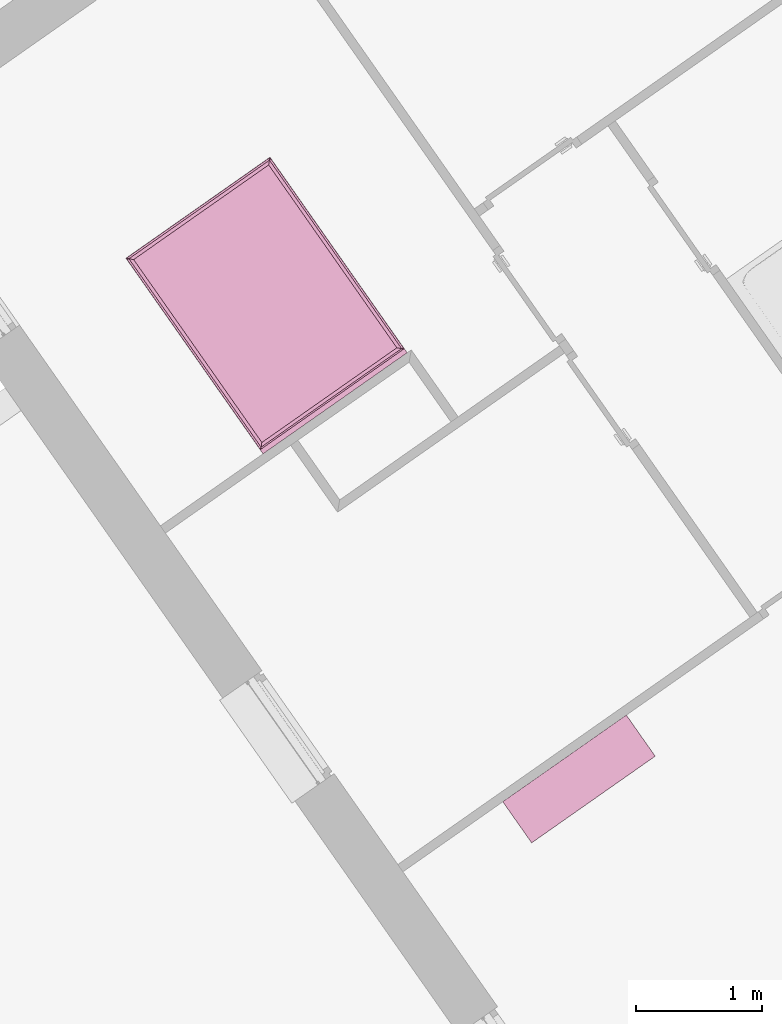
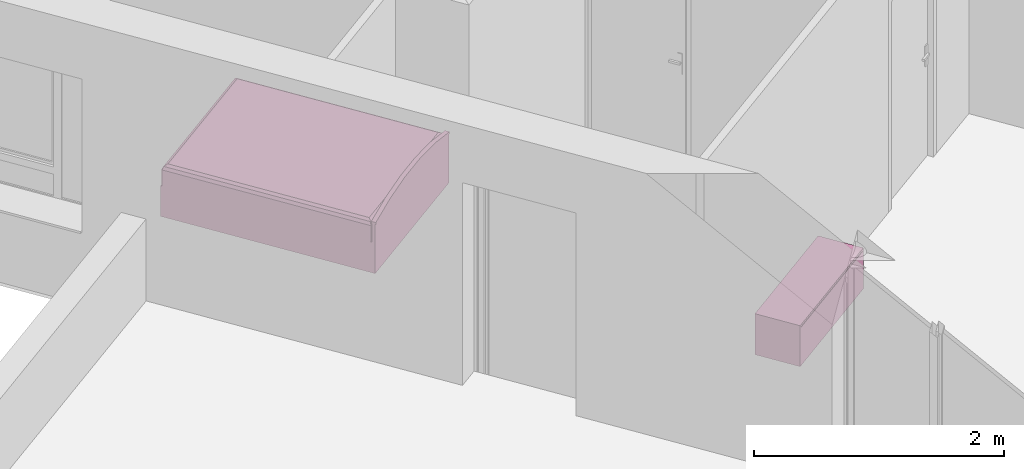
# One storey, part 102 of 121: 2 furnishings.
"""IFC2X3 building model written with IfcOpenShell, lengths in metres."""

from ifc_helpers import new_model, entity, si_unit, converted_unit, derived_unit, money_unit, direction, frame, origin_with_axes, place, context, subcontext, project, spatial, open_shell, faceted_brep, surface_model, source, transform, mapped, type_object, element, save


model = new_model("IFC2X3")

# Units and contexts
model_context = context("Model", 3, precision=1e-05, world=origin_with_axes(), true_north=direction((0.0, 1.0)))
body_context = subcontext(model_context, "Body", "Model", "MODEL_VIEW")
ifc_project = project(units=[si_unit("LENGTHUNIT", "METRE"), si_unit("AREAUNIT", "SQUARE_METRE"), si_unit("VOLUMEUNIT", "CUBIC_METRE"), converted_unit("PLANEANGLEUNIT", "DEGREE", entity("IfcPlaneAngleMeasure", 0.0174532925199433), si_unit("PLANEANGLEUNIT", "RADIAN"), dimensions=[0, 0, 0, 0, 0, 0, 0]), money_unit("CHF"), converted_unit("TIMEUNIT", "Year", entity("IfcTimeMeasure", 31557600.0), si_unit("TIMEUNIT", "SECOND"), dimensions=[0, 0, 1, 0, 0, 0, 0]), si_unit("MASSUNIT", "GRAM", prefix="KILO"), si_unit("THERMODYNAMICTEMPERATUREUNIT", "DEGREE_CELSIUS"), si_unit("LUMINOUSINTENSITYUNIT", "LUMEN"), si_unit("ENERGYUNIT", "JOULE", prefix="MEGA"), derived_unit("THERMALCONDUCTANCEUNIT", [(si_unit("POWERUNIT", "WATT"), 1), (si_unit("LENGTHUNIT", "METRE"), -1), (si_unit("THERMODYNAMICTEMPERATUREUNIT", "KELVIN"), -1)]), derived_unit("SPECIFICHEATCAPACITYUNIT", [(si_unit("ENERGYUNIT", "JOULE"), 1), (si_unit("MASSUNIT", "GRAM", prefix="KILO"), -1), (si_unit("THERMODYNAMICTEMPERATUREUNIT", "KELVIN"), -1)]), derived_unit("MASSDENSITYUNIT", [(si_unit("MASSUNIT", "GRAM", prefix="KILO"), 1), (si_unit("VOLUMEUNIT", "CUBIC_METRE"), -1)])], contexts=[model_context])

# Site, building, storey
site_placement = place(None, origin_with_axes())
site = spatial("IfcSite", under=ifc_project, at=site_placement, Name="Site", CompositionType="ELEMENT")
building_placement = place(site_placement, origin_with_axes())
building = spatial("IfcBuilding", under=site, at=building_placement, Name="Bâtiment", CompositionType="ELEMENT")
storey_placement = place(building_placement, frame((0.0, 0.0, 2.75), z_axis=(0.0, 0.0, 1.0), x_axis=(1.0, 0.0, 0.0)))
storey = spatial("IfcBuildingStorey", under=building, at=storey_placement, Name="Etage 1", CompositionType="ELEMENT", Elevation=2.75)

# Furnishings
furnishing_element_type_1 = type_object("IfcFurnishingElementType", Name="Meuble à plans 27")
shared_shape_1 = source(origin_with_axes(), body_context, "Body", "SurfaceModel", [
    surface_model("IfcShellBasedSurfaceModel", [(-1.18, 0.02, 0.0), (-1.18, 0.4, 0.0), (-0.02, 0.4, 0.0), (-0.02, 0.02, 0.0)], [open_shell([[[0, 1, 2, 3]]])]),
    faceted_brep([(0.0, 0.4, 0.0), (0.0, 0.0, 0.0), (-1.2, 0.0, 0.0), (-1.2, 0.4, 0.0), (0.0, 0.4, 0.4), (0.0, 0.0, 0.4), (-1.2, 0.0, 0.4), (-0.02, 0.0, 0.02), (-1.18, 0.0, 0.02), (-1.18, 0.0, 0.38), (-0.02, 0.0, 0.38), (-1.2, 0.4, 0.4), (-0.02, 0.4, 0.01999999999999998), (-0.02, 0.4, 0.38), (-1.18, 0.4, 0.38), (-1.18, 0.4, 0.01999999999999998)], [[[0, 1, 2, 3]], [[4, 5, 1, 0]], [[1, 5, 6, 2], [7, 8, 9, 10]], [[3, 2, 6, 11]], [[0, 3, 11, 4], [12, 13, 14, 15]], [[11, 6, 5, 4]], [[15, 8, 7, 12]], [[14, 9, 8, 15]], [[13, 10, 9, 14]], [[12, 7, 10, 13]]]),
    faceted_brep([(-1.18, 0.4, 0.01999999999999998), (-1.18, 0.4, 0.38), (-0.02, 0.4, 0.38), (-0.02, 0.4, 0.01999999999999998), (-1.18, 0.38, 0.01999999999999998), (-1.18, 0.3800000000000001, 0.38), (-0.02, 0.3800000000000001, 0.38), (-0.02, 0.38, 0.01999999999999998)], [[[0, 1, 2, 3]], [[0, 4, 5, 1]], [[1, 5, 6, 2]], [[2, 6, 7, 3]], [[3, 7, 4, 0]], [[7, 6, 5, 4]]]),
    faceted_brep([(-1.18, 0.0, 0.02), (-1.18, 0.38, 0.02), (-0.02, 0.38, 0.02), (-0.02, 0.0, 0.02), (-1.18, 0.0, 0.3750000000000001), (-1.18, 0.38, 0.3750000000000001), (-0.02, 0.38, 0.3750000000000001), (-0.02, 0.0, 0.3750000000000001)], [[[0, 1, 2, 3]], [[0, 4, 5, 1]], [[1, 5, 6, 2]], [[2, 6, 7, 3]], [[3, 7, 4, 0]], [[7, 6, 5, 4]]]),
])
furnishing_1_placement = place(storey_placement, frame((9555.962045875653, -1068.946968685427, 57.92018680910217), z_axis=(0.0, 0.0, 1.0), x_axis=(0.8187432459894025, 0.5741598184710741, 0.0)))
element("IfcFurnishingElement", 1, at=furnishing_1_placement, inside=storey, type_object=furnishing_element_type_1, Name="Obj.-376", context=body_context, shape_type="MappedRepresentation", body=[
    mapped(shared_shape_1, transform((0.0, 0.0, 0.0))),
])
furnishing_element_type_2 = type_object("IfcFurnishingElementType", Name="Lit double 01")
shared_shape_2 = source(origin_with_axes(), body_context, "Body", "Brep", [
    faceted_brep([(0.0, 1.895, 0.0), (0.0, 1.865, 0.0), (-1.4, 1.865, 0.0), (-1.4, 1.895, 0.0), (0.0, 1.895, 0.48), (0.0, 1.865, 0.48), (-0.276362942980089, 1.865, 0.5438448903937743), (-0.558179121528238, 1.865, 0.5759741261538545), (-0.8418208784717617, 1.865, 0.5759741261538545), (-1.123637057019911, 1.865, 0.5438448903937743), (-1.4, 1.865, 0.48), (-1.4, 1.865, 0.4799), (-1.4, 1.895, 0.4799), (-1.4, 1.895, 0.48), (-1.123637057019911, 1.895, 0.5438448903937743), (-0.8418208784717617, 1.895, 0.5759741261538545), (-0.558179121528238, 1.895, 0.5759741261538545), (-0.276362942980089, 1.895, 0.5438448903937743)], [[[0, 1, 2, 3]], [[4, 5, 1, 0]], [[1, 5, 6, 7, 8, 9, 10, 11, 2]], [[3, 2, 11, 12]], [[0, 3, 12, 13, 14, 15, 16, 17, 4]], [[17, 6, 5, 4]], [[16, 7, 6, 17]], [[15, 8, 7, 16]], [[14, 9, 8, 15]], [[13, 10, 9, 14]], [[12, 11, 10, 13]]]),
    faceted_brep([(-1.4, 1.9, 0.48), (-1.4, 1.86, 0.48), (-1.399999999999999, 1.86, 0.4999999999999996), (-1.399999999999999, 1.9, 0.4999999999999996), (-1.123637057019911, 1.9, 0.5438448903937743), (-1.123637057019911, 1.86, 0.5438448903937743), (-0.8418208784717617, 1.86, 0.5759741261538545), (-0.558179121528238, 1.86, 0.5759741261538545), (-0.276362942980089, 1.86, 0.5438448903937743), (0.0, 1.86, 0.48), (0.0, 1.86, 0.4999), (0.0, 1.86, 0.5), (-0.276362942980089, 1.86, 0.5638448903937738), (-0.5581791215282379, 1.86, 0.5959741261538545), (-0.8418208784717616, 1.86, 0.5959741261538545), (-1.123637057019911, 1.86, 0.5638448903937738), (-1.123637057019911, 1.9, 0.5638448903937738), (-0.8418208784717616, 1.9, 0.5959741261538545), (-0.5581791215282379, 1.9, 0.5959741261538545), (-0.276362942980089, 1.9, 0.5638448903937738), (0.0, 1.9, 0.5), (0.0, 1.9, 0.4999), (0.0, 1.9, 0.48), (-0.276362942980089, 1.9, 0.5438448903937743), (-0.558179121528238, 1.9, 0.5759741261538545), (-0.8418208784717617, 1.9, 0.5759741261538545)], [[[0, 1, 2, 3]], [[4, 5, 1, 0]], [[1, 5, 6, 7, 8, 9, 10, 11, 12, 13, 14, 15, 2]], [[3, 2, 15, 16]], [[0, 3, 16, 17, 18, 19, 20, 21, 22, 23, 24, 25, 4]], [[25, 6, 5, 4]], [[24, 7, 6, 25]], [[23, 8, 7, 24]], [[22, 9, 8, 23]], [[21, 10, 9, 22]], [[20, 11, 10, 21]], [[19, 12, 11, 20]], [[18, 13, 12, 19]], [[17, 14, 13, 18]], [[16, 15, 14, 17]]]),
    faceted_brep([(-1.4, 0.0, 0.0), (-1.4, 1.865, 0.0), (0.0, 1.865, 0.0), (0.0, 0.0, 0.0), (-1.4, 0.0, 0.3), (-1.4, 1.865, 0.3), (0.0, 1.865, 0.3), (0.0, 0.0, 0.3)], [[[0, 1, 2, 3]], [[0, 4, 5, 1]], [[1, 5, 6, 2]], [[2, 6, 7, 3]], [[3, 7, 4, 0]], [[7, 6, 5, 4]]]),
    faceted_brep([(0.0, 0.02, 0.43), (-0.002679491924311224, 0.01, 0.43), (-0.009999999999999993, 0.002679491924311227, 0.43), (-0.01999999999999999, 0.0, 0.43), (-1.38, 0.0, 0.43), (-1.39, 0.002679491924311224, 0.43), (-1.397320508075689, 0.009999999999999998, 0.43), (-1.4, 0.02, 0.43), (-1.4, 1.845, 0.43), (-1.397320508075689, 1.855, 0.43), (-1.39, 1.862320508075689, 0.43), (-1.38, 1.865, 0.43), (-0.02, 1.865, 0.43), (-0.009999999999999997, 1.862320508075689, 0.43), (-0.002679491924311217, 1.855, 0.43), (0.0, 1.845, 0.43), (3.895163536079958e-10, 0.02000000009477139, 0.44), (-0.002679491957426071, 0.0100000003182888, 0.44), (-0.0100000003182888, 0.002679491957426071, 0.44), (-0.02000000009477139, -3.895163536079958e-10, 0.44), (-1.380000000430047, -3.895163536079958e-10, 0.44), (-1.39000000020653, 0.002679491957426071, 0.44), (-1.39732050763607, 0.0100000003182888, 0.44), (-1.399999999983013, 0.02000000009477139, 0.44), (-1.399999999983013, 1.845000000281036, 0.44), (-1.39732050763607, 1.855000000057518, 0.44), (-1.39000000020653, 1.862320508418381, 0.44), (-1.380000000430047, 1.864999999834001, 0.44), (-0.02000000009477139, 1.864999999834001, 0.44), (-0.0100000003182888, 1.862320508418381, 0.44), (-0.002679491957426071, 1.855000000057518, 0.44), (3.895163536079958e-10, 1.845000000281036, 0.44), (-0.002044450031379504, 0.02026915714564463, 0.4555291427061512), (-0.004512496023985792, 0.01105828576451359, 0.4555291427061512), (-0.01105828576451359, 0.004512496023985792, 0.4555291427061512), (-0.02026915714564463, 0.002044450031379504, 0.4555291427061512), (-1.379730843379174, 0.002044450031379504, 0.4555291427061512), (-1.388941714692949, 0.004512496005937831, 0.4555291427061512), (-1.395487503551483, 0.01105828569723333, 0.4555291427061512), (-1.397955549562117, 0.02026915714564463, 0.4555291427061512), (-1.397955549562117, 1.844730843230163, 0.4555291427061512), (-1.395487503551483, 1.853941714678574, 0.4555291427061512), (-1.388941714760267, 1.860487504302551, 0.4555291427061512), (-1.379730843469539, 1.862955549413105, 0.4555291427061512), (-0.02026915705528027, 1.862955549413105, 0.4555291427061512), (-0.01105828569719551, 1.860487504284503, 0.4555291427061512), (-0.004512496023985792, 1.853941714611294, 0.4555291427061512), (-0.002044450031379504, 1.844730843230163, 0.4555291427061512), (-0.01757359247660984, 0.02231360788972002, 0.4824264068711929), (-0.01843554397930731, 0.01909676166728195, 0.4824264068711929), (-0.01909676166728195, 0.01843554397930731, 0.4824264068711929), (-0.02231360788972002, 0.01757359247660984, 0.4824264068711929), (-1.377686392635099, 0.01757359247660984, 0.4824264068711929), (-1.380903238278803, 0.01843554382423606, 0.4824264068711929), (-1.381564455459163, 0.01909676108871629, 0.4824264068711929), (-1.382426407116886, 0.02231360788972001, 0.4824264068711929), (-1.382426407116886, 1.842686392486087, 0.4824264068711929), (-1.381564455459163, 1.845903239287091, 0.4824264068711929), (-1.380903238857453, 1.846564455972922, 0.4824264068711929), (-1.377686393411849, 1.847426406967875, 0.4824264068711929), (-0.02231360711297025, 1.847426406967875, 0.4824264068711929), (-0.01909676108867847, 1.846564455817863, 0.4824264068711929), (-0.01843554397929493, 1.845903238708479, 0.4824264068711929), (-0.01757359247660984, 1.842686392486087, 0.4824264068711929), (-0.02303225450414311, 0.02303225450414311, 0.4855779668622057), (-0.02000000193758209, 0.02000000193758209, 0.4834338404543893), (-0.04447085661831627, 0.04447085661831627, 0.4979555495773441), (-1.35552914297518, 0.04447085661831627, 0.4979555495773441), (-1.376967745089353, 0.02303225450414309, 0.4855779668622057), (-1.379999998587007, 0.02000000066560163, 0.4834338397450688), (-1.35552914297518, 1.820529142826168, 0.4979555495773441), (-1.376967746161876, 1.841967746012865, 0.4855779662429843), (-1.380000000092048, 1.845000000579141, 0.4834338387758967), (-0.04447085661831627, 1.820529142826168, 0.4979555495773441), (-0.02303225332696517, 1.841967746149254, 0.48557796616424), (-0.02000000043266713, 1.844999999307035, 0.4834338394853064), (-0.05999999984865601, 0.05999999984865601, 0.5000000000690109), (-1.33999999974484, 0.05999999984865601, 0.5000000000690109), (-1.33999999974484, 1.804999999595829, 0.5000000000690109), (-0.05999999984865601, 1.804999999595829, 0.5000000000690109)], [[[0, 1, 2, 3, 4, 5, 6, 7, 8, 9, 10, 11, 12, 13, 14, 15]], [[0, 16, 17, 1]], [[1, 17, 18, 2]], [[2, 18, 19, 3]], [[3, 19, 20, 4]], [[4, 20, 21, 5]], [[5, 21, 22, 6]], [[6, 22, 23, 7]], [[7, 23, 24, 8]], [[8, 24, 25, 9]], [[9, 25, 26, 10]], [[10, 26, 27, 11]], [[11, 27, 28, 12]], [[12, 28, 29, 13]], [[13, 29, 30, 14]], [[14, 30, 31, 15]], [[15, 31, 16, 0]], [[16, 32, 33, 17]], [[17, 33, 34, 18]], [[18, 34, 35, 19]], [[19, 35, 36, 20]], [[20, 36, 37, 21]], [[21, 37, 38, 22]], [[22, 38, 39, 23]], [[23, 39, 40, 24]], [[24, 40, 41, 25]], [[25, 41, 42, 26]], [[26, 42, 43, 27]], [[27, 43, 44, 28]], [[28, 44, 45, 29]], [[29, 45, 46, 30]], [[30, 46, 47, 31]], [[31, 47, 32, 16]], [[32, 48, 49, 33]], [[33, 49, 50, 34]], [[34, 50, 51, 35]], [[35, 51, 52, 36]], [[36, 52, 53, 37]], [[37, 53, 54, 38]], [[38, 54, 55, 39]], [[39, 55, 56, 40]], [[40, 56, 57, 41]], [[41, 57, 58, 42]], [[42, 58, 59, 43]], [[43, 59, 60, 44]], [[44, 60, 61, 45]], [[45, 61, 62, 46]], [[46, 62, 63, 47]], [[47, 63, 48, 32]], [[48, 64, 65, 49]], [[49, 65, 50]], [[50, 65, 64, 51]], [[51, 64, 66, 67, 68, 52]], [[52, 68, 69, 53]], [[53, 69, 54]], [[54, 69, 68, 55]], [[55, 68, 67, 70, 71, 56]], [[56, 71, 72, 57]], [[57, 72, 58]], [[58, 72, 71, 59]], [[59, 71, 70, 73, 74, 60]], [[60, 74, 75, 61]], [[61, 75, 62]], [[62, 75, 74, 63]], [[63, 74, 73, 66, 64, 48]], [[66, 76, 77, 67]], [[67, 77, 78, 70]], [[70, 78, 79, 73]], [[73, 79, 76, 66]], [[78, 77, 76, 79]]]),
    faceted_brep([(-1.39000000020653, 0.002679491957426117, 0.2999999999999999), (-1.39, 0.002679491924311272, 0.3099999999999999), (-1.397320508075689, 0.01000000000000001, 0.3099999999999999), (-1.39732050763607, 0.01000000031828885, 0.2999999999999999), (-1.380000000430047, -3.895163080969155e-10, 0.2999999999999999), (-1.38, 0.0, 0.3099999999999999), (-1.4, 0.02000000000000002, 0.3099999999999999), (-0.02000000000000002, 0.0, 0.3099999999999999), (-0.01000000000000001, 0.002679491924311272, 0.3099999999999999), (-0.002679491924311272, 0.01000000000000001, 0.3099999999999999), (0.0, 0.02000000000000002, 0.3099999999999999), (0.0, 1.845, 0.3099999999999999), (-0.002679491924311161, 1.855, 0.3099999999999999), (-0.01000000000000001, 1.862320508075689, 0.3099999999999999), (-0.02000000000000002, 1.865, 0.3099999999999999), (-1.38, 1.865, 0.3099999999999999), (-1.39, 1.862320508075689, 0.3099999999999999), (-1.397320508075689, 1.855, 0.3099999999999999), (-1.4, 1.845, 0.3099999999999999), (-1.399999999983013, 0.02000000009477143, 0.2999999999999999), (-1.399999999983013, 1.845000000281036, 0.2999999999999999), (-1.39732050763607, 1.855000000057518, 0.2999999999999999), (-1.39000000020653, 1.862320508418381, 0.2999999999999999), (-1.380000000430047, 1.864999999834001, 0.2999999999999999), (-0.02000000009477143, 1.864999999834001, 0.2999999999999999), (-0.01000000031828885, 1.862320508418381, 0.2999999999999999), (-0.002679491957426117, 1.855000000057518, 0.2999999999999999), (3.895163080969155e-10, 1.845000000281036, 0.2999999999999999), (3.895163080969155e-10, 0.02000000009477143, 0.2999999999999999), (-0.002679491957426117, 0.01000000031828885, 0.2999999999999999), (-0.01000000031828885, 0.002679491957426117, 0.2999999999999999), (-0.02000000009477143, -3.895163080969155e-10, 0.2999999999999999)], [[[0, 1, 2, 3]], [[1, 0, 4, 5]], [[6, 2, 1, 5, 7, 8, 9, 10, 11, 12, 13, 14, 15, 16, 17, 18]], [[3, 2, 6, 19]], [[3, 19, 20, 21, 22, 23, 24, 25, 26, 27, 28, 29, 30, 31, 4, 0]], [[7, 5, 4, 31]], [[30, 8, 7, 31]], [[8, 30, 29, 9]], [[9, 29, 28, 10]], [[10, 28, 27, 11]], [[26, 12, 11, 27]], [[12, 26, 25, 13]], [[25, 24, 14, 13]], [[24, 23, 15, 14]], [[22, 16, 15, 23]], [[21, 17, 16, 22]], [[17, 21, 20, 18]], [[19, 6, 18, 20]]]),
    faceted_brep([(0.0, 0.02, 0.3099999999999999), (0.0, 0.02, 0.4299999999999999), (-0.002679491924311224, 0.01, 0.4299999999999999), (-0.002679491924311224, 0.01, 0.3099999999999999), (0.0, 1.845, 0.3099999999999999), (0.0, 1.845, 0.4299999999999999), (-0.002679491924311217, 1.855, 0.4299999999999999), (-0.009999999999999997, 1.862320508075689, 0.4299999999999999), (-0.02, 1.865, 0.4299999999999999), (-1.38, 1.865, 0.4299999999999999), (-1.39, 1.862320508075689, 0.4299999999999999), (-1.397320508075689, 1.855, 0.4299999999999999), (-1.4, 1.845, 0.4299999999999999), (-1.4, 0.02, 0.4299999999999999), (-1.397320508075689, 0.009999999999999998, 0.4299999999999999), (-1.39, 0.002679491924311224, 0.4299999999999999), (-1.38, 0.0, 0.4299999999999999), (-0.01999999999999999, 0.0, 0.4299999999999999), (-0.009999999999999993, 0.002679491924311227, 0.4299999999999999), (-0.009999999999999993, 0.002679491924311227, 0.3099999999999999), (-0.01999999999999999, 0.0, 0.3099999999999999), (-1.38, 0.0, 0.3099999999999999), (-1.39, 0.002679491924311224, 0.3099999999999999), (-1.397320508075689, 0.009999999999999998, 0.3099999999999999), (-1.4, 0.02, 0.3099999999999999), (-1.4, 1.845, 0.3099999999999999), (-1.397320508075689, 1.855, 0.3099999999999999), (-1.39, 1.862320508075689, 0.3099999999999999), (-1.38, 1.865, 0.3099999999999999), (-0.02, 1.865, 0.3099999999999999), (-0.009999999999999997, 1.862320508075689, 0.3099999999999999), (-0.002679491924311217, 1.855, 0.3099999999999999)], [[[0, 1, 2, 3]], [[4, 5, 1, 0]], [[1, 5, 6, 7, 8, 9, 10, 11, 12, 13, 14, 15, 16, 17, 18, 2]], [[3, 2, 18, 19]], [[0, 3, 19, 20, 21, 22, 23, 24, 25, 26, 27, 28, 29, 30, 31, 4]], [[31, 6, 5, 4]], [[30, 7, 6, 31]], [[29, 8, 7, 30]], [[28, 9, 8, 29]], [[27, 10, 9, 28]], [[26, 11, 10, 27]], [[25, 12, 11, 26]], [[24, 13, 12, 25]], [[23, 14, 13, 24]], [[22, 15, 14, 23]], [[21, 16, 15, 22]], [[20, 17, 16, 21]], [[19, 18, 17, 20]]]),
])
furnishing_2_placement = place(storey_placement, frame((9551.75270483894, -1064.986829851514, 57.7), z_axis=(0.0, 0.0, 1.0), x_axis=(-0.8187432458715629, -0.5741598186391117, 0.0)))
element("IfcFurnishingElement", 2, at=furnishing_2_placement, inside=storey, type_object=furnishing_element_type_2, Name="Obj.-002", context=body_context, shape_type="MappedRepresentation", body=[
    mapped(shared_shape_2, transform((0.0, 0.0, 0.0))),
])

save(model, "model.ifc")
